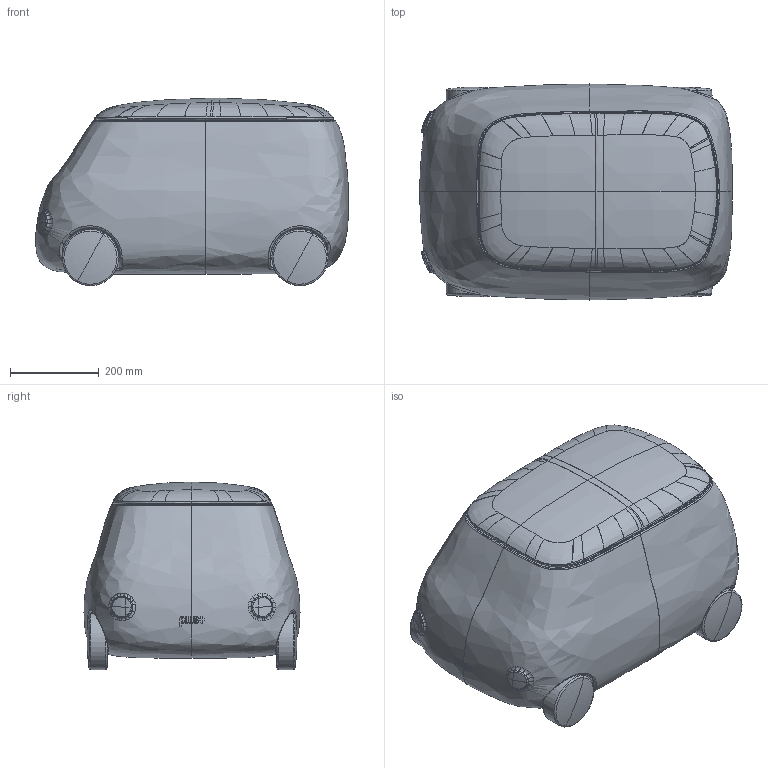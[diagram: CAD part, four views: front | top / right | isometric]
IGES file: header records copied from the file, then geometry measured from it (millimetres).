
Start section: START RECORD GO HERE.
Global section: file name: Plust Van.igs; native system: DASSAULT SYSTEMES CATIA Version 5-6 Release 2014 - www.3ds.com; preprocessor: V5-6R2014_5.24.5.0.02-24-2015.20.00; author: samatori; organization: DOMAIN; date: 20160428.152859; units: millimetre
Bounding box: 704.79 x 486.75 x 422.5 mm (x, y, z)
Surface area: 1994700.9 mm2 (no closed solid volume)
Topology: 0 solids, 0 shells, 936 faces, 4845 edges, 4834 vertices
Faces by surface type: plane 419, bspline 350, revolution 165, extrusion 2
